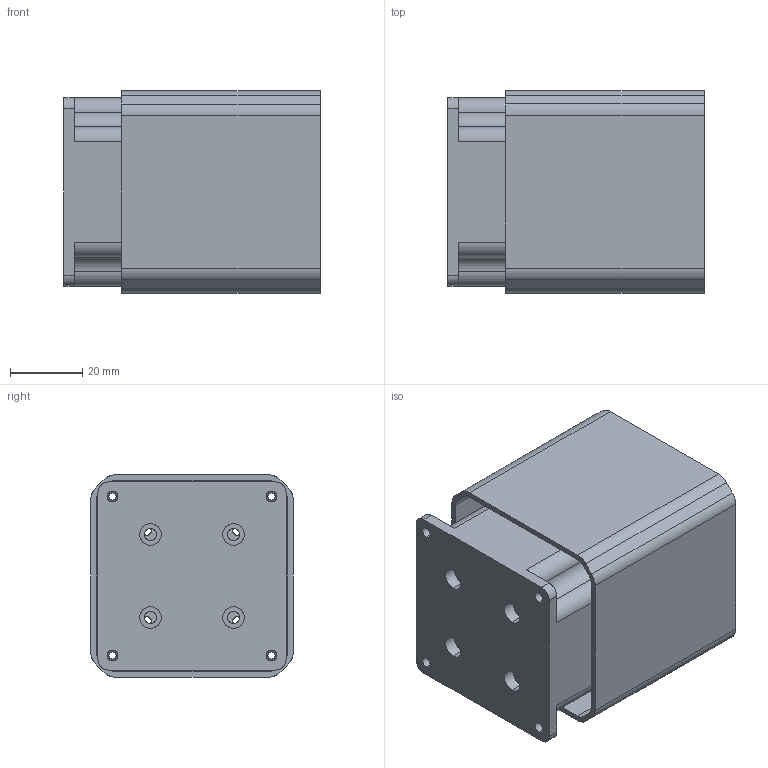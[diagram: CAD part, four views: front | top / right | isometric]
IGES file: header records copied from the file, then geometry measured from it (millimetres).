
Start section: SolidWorks IGES file using analytic representation for surfaces
Global section: file name: C:\Users\dubin\Desktop\9.18-2\萇雄汔蔥怢\PT56-15\PT56-15.IGS; native system: SolidWorks 2017; preprocessor: SolidWorks 2017; author: PDV; date: 220918.153407; units: millimetre
Bounding box: 71 x 56 x 56 mm (x, y, z)
Surface area: 42414.3 mm2 (no closed solid volume)
Topology: 0 solids, 0 shells, 137 faces, 2620 edges, 2620 vertices
Faces by surface type: revolution 99, bspline 38
